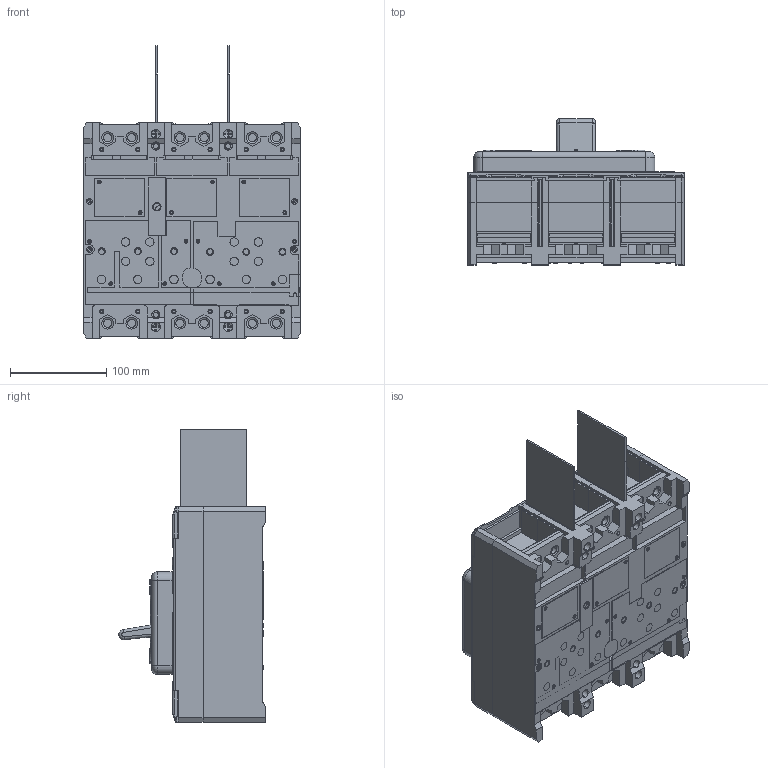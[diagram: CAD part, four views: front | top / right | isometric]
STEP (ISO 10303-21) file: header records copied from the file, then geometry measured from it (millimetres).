
FILE_DESCRIPTION (( 'STEP AP203' ), '1' );
FILE_NAME ('ÂÀ51-39 ñ ìåæïîë ïåðåãîðîäêàìè.STEP', '2016-04-05T13:09:20', ( 'admin' ), ( '' ), 'SwSTEP 2.0', 'SolidWorks 2012', '' );
FILE_SCHEMA (( 'CONFIG_CONTROL_DESIGN' ));
Products named in the file (1): ÂÀ51-39 ñ ìåæïîë ïåðåãîðîäêàìè
Bounding box: 224.8 x 151.78 x 303.48 mm (x, y, z)
Volume: 3769612.6 mm3; surface area: 735282.1 mm2
Topology: 140 solids, 140 shells, 3917 faces, 9958 edges, 6432 vertices
Faces by surface type: plane 2001, cylinder 1269, cone 284, bspline 177, sphere 116, torus 70
Entity records: 126889 total; most frequent: CARTESIAN_POINT 31564, DIRECTION 19853, ORIENTED_EDGE 19504, EDGE_CURVE 9752, AXIS2_PLACEMENT_3D 6898, VERTEX_POINT 6344, VECTOR 6057, LINE 6057
